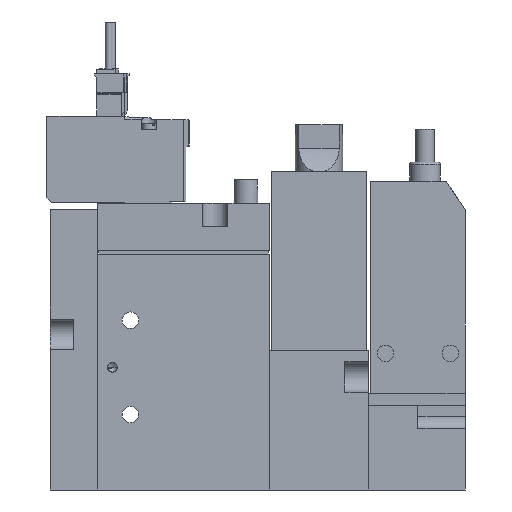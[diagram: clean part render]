
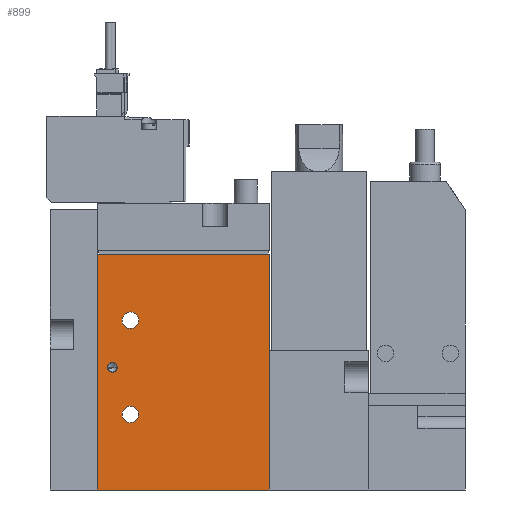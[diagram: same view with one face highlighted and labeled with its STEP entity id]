
A CAD part, left-side view. The second image highlights one B-rep face of the part: STEP entity #899.
In plain terms, the highlighted planar face has unit normal (-1, 0, 0) as drawn and (1, 0, 0) by its records, which use the part's own axes.
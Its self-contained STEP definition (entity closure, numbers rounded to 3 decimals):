
#899=ADVANCED_FACE('',(#1379,#1380,#1381,#1382),#1383,.F.);
#1379=FACE_BOUND('',#2280,.T.);
#1380=FACE_BOUND('',#2281,.T.);
#1381=FACE_BOUND('',#2282,.T.);
#1382=FACE_OUTER_BOUND('',#2283,.T.);
#1383=PLANE('',#2284);
#2280=EDGE_LOOP('',(#3417));
#2281=EDGE_LOOP('',(#3418));
#2282=EDGE_LOOP('',(#3419));
#2283=EDGE_LOOP('',(#3420,#3421,#3422,#3423));
#2284=AXIS2_PLACEMENT_3D('',#3424,#3425,#3426);
#3417=ORIENTED_EDGE('',*,*,#6296,.F.);
#3418=ORIENTED_EDGE('',*,*,#6297,.T.);
#3419=ORIENTED_EDGE('',*,*,#6290,.T.);
#3420=ORIENTED_EDGE('',*,*,#6285,.T.);
#3421=ORIENTED_EDGE('',*,*,#6282,.F.);
#3422=ORIENTED_EDGE('',*,*,#6294,.F.);
#3423=ORIENTED_EDGE('',*,*,#6287,.T.);
#3424=CARTESIAN_POINT('',(8.5,-19.444,50.0));
#3425=DIRECTION('',(-1.0,0.0,0.0));
#3426=DIRECTION('',(0.0,0.0,1.0));
#6282=EDGE_CURVE('',#7325,#7323,#7327,.T.);
#6285=EDGE_CURVE('',#7332,#7323,#7333,.T.);
#6287=EDGE_CURVE('',#7335,#7332,#7336,.T.);
#6290=EDGE_CURVE('',#7340,#7340,#7341,.T.);
#6294=EDGE_CURVE('',#7335,#7325,#7346,.T.);
#6296=EDGE_CURVE('',#7349,#7349,#7350,.T.);
#6297=EDGE_CURVE('',#7351,#7351,#7352,.T.);
#7323=VERTEX_POINT('',#9099);
#7325=VERTEX_POINT('',#9102);
#7327=LINE('',#9105,#9106);
#7332=VERTEX_POINT('',#9111);
#7333=LINE('',#9112,#9113);
#7335=VERTEX_POINT('',#9116);
#7336=LINE('',#9117,#9118);
#7340=VERTEX_POINT('',#9123);
#7341=CIRCLE('',#9124,1.75);
#7346=LINE('',#9129,#9130);
#7349=VERTEX_POINT('',#9133);
#7350=CIRCLE('',#9134,1.0);
#7351=VERTEX_POINT('',#9135);
#7352=CIRCLE('',#9136,1.75);
#9099=CARTESIAN_POINT('',(8.5,17.056,0.0));
#9102=CARTESIAN_POINT('',(8.5,17.056,50.0));
#9105=CARTESIAN_POINT('',(8.5,17.056,50.0));
#9106=VECTOR('',#11451,1.0);
#9111=CARTESIAN_POINT('',(8.5,-19.444,0.0));
#9112=CARTESIAN_POINT('',(8.5,-19.444,0.0));
#9113=VECTOR('',#11458,1.0);
#9116=CARTESIAN_POINT('',(8.5,-19.444,50.0));
#9117=CARTESIAN_POINT('',(8.5,-19.444,50.0));
#9118=VECTOR('',#11460,1.0);
#9123=CARTESIAN_POINT('',(8.5,-10.694,16.0));
#9124=AXIS2_PLACEMENT_3D('',#11465,#11466,#11467);
#9129=CARTESIAN_POINT('',(8.5,-19.444,50.0));
#9130=VECTOR('',#11474,1.0);
#9133=CARTESIAN_POINT('',(8.5,-17.244,26.0));
#9134=AXIS2_PLACEMENT_3D('',#11478,#11479,#11480);
#9135=CARTESIAN_POINT('',(8.5,-10.694,36.0));
#9136=AXIS2_PLACEMENT_3D('',#11481,#11482,#11483);
#11451=DIRECTION('',(0.0,0.0,-1.0));
#11458=DIRECTION('',(0.0,1.0,0.0));
#11460=DIRECTION('',(0.0,0.0,-1.0));
#11465=CARTESIAN_POINT('',(8.5,-12.444,16.0));
#11466=DIRECTION('',(-1.0,0.0,0.0));
#11467=DIRECTION('',(0.0,1.0,0.0));
#11474=DIRECTION('',(0.0,1.0,0.0));
#11478=CARTESIAN_POINT('',(8.5,-16.244,26.0));
#11479=DIRECTION('',(1.0,0.,0.0));
#11480=DIRECTION('',(0.,-1.0,0.0));
#11481=CARTESIAN_POINT('',(8.5,-12.444,36.0));
#11482=DIRECTION('',(-1.0,0.0,0.0));
#11483=DIRECTION('',(0.0,1.0,0.0));
